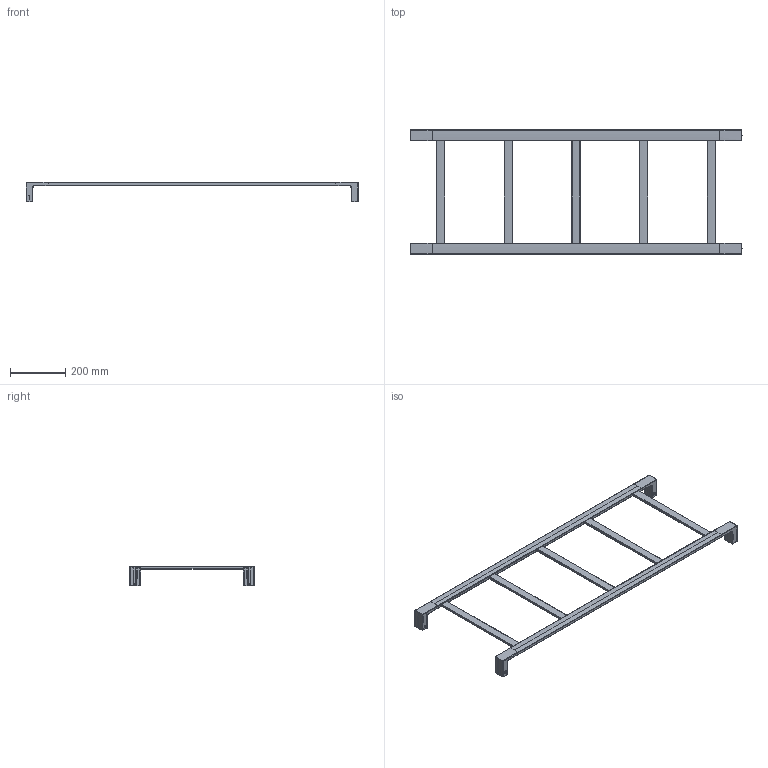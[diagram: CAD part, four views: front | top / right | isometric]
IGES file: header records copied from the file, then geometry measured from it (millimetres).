
Start section: SolidWorks IGES file using analytic representation for surfaces
Global section: file name: G:\Projects\New project\For Marketing\IGS\IGS\2016-1-29\485111002VW.IGS; native system: SolidWorks 2010; preprocessor: SolidWorks 2010; author: linda; date: 160127.140050; units: millimetre
Bounding box: 1200 x 450 x 70.5 mm (x, y, z)
Surface area: 525624.5 mm2 (no closed solid volume)
Topology: 0 solids, 0 shells, 410 faces, 5355 edges, 5351 vertices
Faces by surface type: revolution 225, bspline 185
